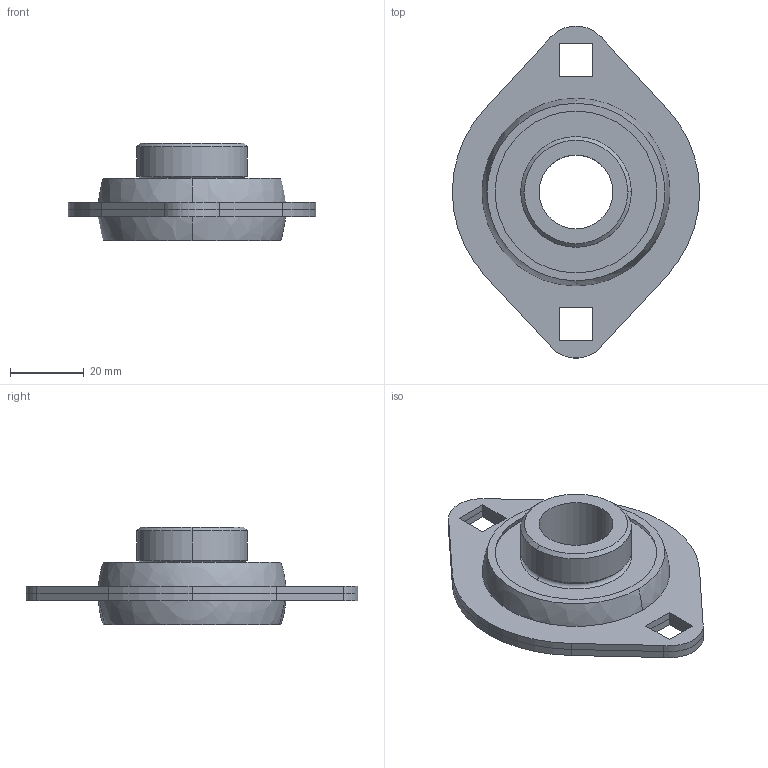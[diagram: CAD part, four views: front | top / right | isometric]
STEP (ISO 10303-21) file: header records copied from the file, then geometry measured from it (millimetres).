
FILE_DESCRIPTION (( 'STEP AP203' ), '1' );
FILE_NAME ('084.802.020.STEP', '2013-01-29T13:47:59', ( 'Alusic' ), ( 'Alusic' ), 'SwSTEP 2.0', 'SolidWorks 2011', '' );
FILE_SCHEMA (( 'CONFIG_CONTROL_DESIGN' ));
Length unit declared in the file: millimetre
Products named in the file (1): 084.802.020
Bounding box: 67 x 89.97 x 26.5 mm (x, y, z)
Volume: 35958.8 mm3; surface area: 21739.9 mm2
Topology: 3 solids, 3 shells, 65 faces, 175 edges, 113 vertices
Faces by surface type: plane 33, cylinder 16, sphere 10, torus 4, cone 2
Entity records: 2061 total; most frequent: DIRECTION 366, CARTESIAN_POINT 334, ORIENTED_EDGE 324, EDGE_CURVE 162, AXIS2_PLACEMENT_3D 138, VERTEX_POINT 106, LINE 90, VECTOR 90
